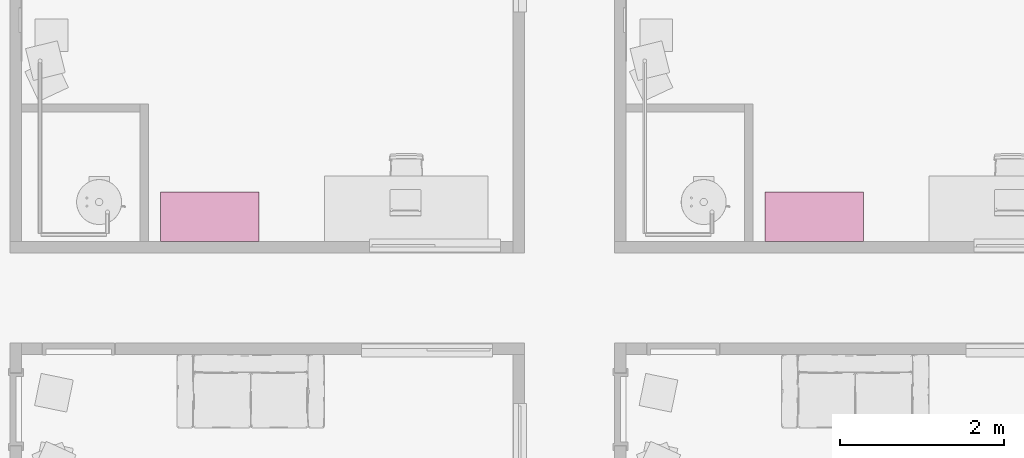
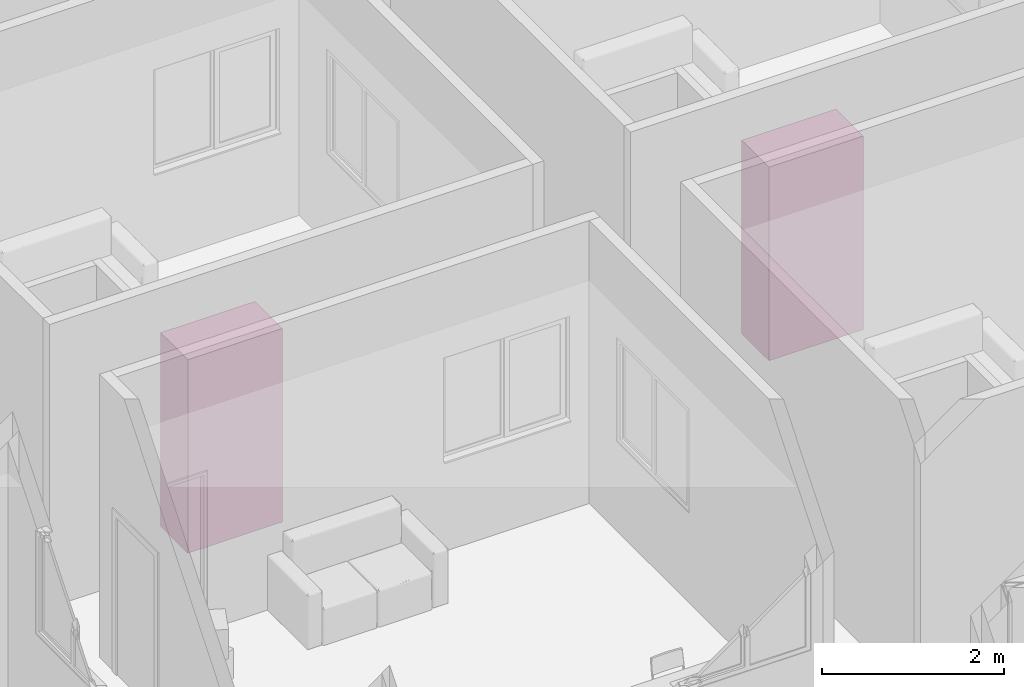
# One storey, part 67 of 71: 2 furniture elements.
"""IFC4 building model written with IfcOpenShell, lengths in centimetres."""

from ifc_helpers import new_model, entity, si_unit, converted_unit, derived_unit, direction, frame, origin, place, context, subcontext, project, spatial, indexed_curve, outline, extrude, source, transform, mapped, material, type_object, type_shapes, element, save


model = new_model("IFC4")

# Units and contexts
model_context = context("Model", 3, precision=0.001, world=origin(), true_north=direction((6.123233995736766e-17, 1.0)))
body_context = subcontext(model_context, "Body", "Model", "MODEL_VIEW")
ifc_project = project(units=[si_unit("LENGTHUNIT", "METRE", prefix="CENTI"), si_unit("AREAUNIT", "SQUARE_METRE"), si_unit("VOLUMEUNIT", "CUBIC_METRE"), derived_unit("THERMALTRANSMITTANCEUNIT", [(si_unit("MASSUNIT", "GRAM", prefix="KILO"), 1), (si_unit("THERMODYNAMICTEMPERATUREUNIT", "KELVIN"), -1), (si_unit("TIMEUNIT", "SECOND"), -3)]), converted_unit("PLANEANGLEUNIT", "DEGREE", entity("IfcPlaneAngleMeasure", 0.017453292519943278), si_unit("PLANEANGLEUNIT", "RADIAN"), dimensions=[0, 0, 0, 0, 0, 0, 0]), derived_unit("MASSDENSITYUNIT", [(si_unit("MASSUNIT", "GRAM", prefix="KILO"), 1), (si_unit("LENGTHUNIT", "METRE"), -3)]), derived_unit("VAPORPERMEABILITYUNIT", [(si_unit("LENGTHUNIT", "METRE"), -1), (si_unit("TIMEUNIT", "SECOND"), 1)]), derived_unit("USERDEFINED", [(si_unit("MASSUNIT", "GRAM", prefix="KILO"), 1), (si_unit("TIMEUNIT", "SECOND"), -3), (si_unit("LENGTHUNIT", "METRE"), 3), (si_unit("ELECTRICCURRENTUNIT", "AMPERE"), -2)]), derived_unit("SPECIFICHEATCAPACITYUNIT", [(si_unit("THERMODYNAMICTEMPERATUREUNIT", "KELVIN"), -1), (si_unit("LENGTHUNIT", "METRE"), 2), (si_unit("TIMEUNIT", "SECOND"), -2)]), derived_unit("THERMALCONDUCTANCEUNIT", [(si_unit("MASSUNIT", "GRAM", prefix="KILO"), 1), (si_unit("THERMODYNAMICTEMPERATUREUNIT", "KELVIN"), -1), (si_unit("TIMEUNIT", "SECOND"), -3), (si_unit("LENGTHUNIT", "METRE"), 1)]), si_unit("PRESSUREUNIT", "PASCAL"), derived_unit("MODULUSOFELASTICITYUNIT", [(si_unit("MASSUNIT", "GRAM", prefix="KILO"), 1), (si_unit("LENGTHUNIT", "METRE"), -1), (si_unit("TIMEUNIT", "SECOND"), -2)]), derived_unit("THERMALEXPANSIONCOEFFICIENTUNIT", [(si_unit("THERMODYNAMICTEMPERATUREUNIT", "KELVIN"), -1)])], contexts=[model_context])

# Site, building, storey, space
site_placement = place(None, origin())
site = spatial("IfcSite", under=ifc_project, at=site_placement, Name="Default", CompositionType="ELEMENT")
building_placement = place(site_placement, origin())
building = spatial("IfcBuilding", under=site, at=building_placement, Name="IDS Escape Game Building", CompositionType="ELEMENT")
storey_placement = place(building_placement, frame((0.0, 0.0, 400.0)))
storey = spatial("IfcBuildingStorey", under=building, at=storey_placement, Name="01_First Floor", CompositionType="ELEMENT", Elevation=399.99999999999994)
space_1_placement = place(storey_placement, origin())
space_1 = spatial("IfcSpace", under=storey, at=space_1_placement, Name="55", CompositionType="ELEMENT", PredefinedType="NOTDEFINED")

# Furniture
ifc_material = material(Name="<Unnamed>")
furniture_type = type_object("IfcFurnitureType", Name="BPL_82.11_CA_UN_kast_gen_BERSnl:type 1", AssemblyPlace="NOTDEFINED", PredefinedType="NOTDEFINED", material=ifc_material)
shared_shape = source(origin(), body_context, "Body", "SweptSolid", [
    extrude(outline(indexed_curve([(-59.99999999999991, -29.999999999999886), (59.99999999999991, -29.999999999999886), (59.99999999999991, 29.999999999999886), (-59.99999999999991, 29.999999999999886), (-59.99999999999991, -29.999999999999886)], self_intersect=False)), frame((-60.0, -30.0, 0.0), z_axis=(0.0, 0.0, 1.0), x_axis=(-1.0, 0.0, 0.0)), (0.0, 0.0, 1.0), 260.0),
])
type_shapes(furniture_type, [shared_shape])
furniture_1_placement = place(space_1_placement, frame((3987.0, 1349.0, 0.0)))
element("IfcFurniture", 1, at=furniture_1_placement, inside=space_1, type_object=furniture_type, material=ifc_material, Name="BPL_82.11_CA_UN_kast_gen_BERSnl:type 1", ObjectType="BPL_82.11_CA_UN_kast_gen_BERSnl:type 1", PredefinedType="NOTDEFINED", context=body_context, shape_type="MappedRepresentation", body=[
    mapped(shared_shape, transform((0.0, 0.0, 0.0), scale=1.0)),
])

# Space
space_2_placement = place(storey_placement, origin())
space_2 = spatial("IfcSpace", under=storey, at=space_2_placement, Name="56", CompositionType="ELEMENT", PredefinedType="NOTDEFINED")

# Furniture
furniture_2_placement = place(space_2_placement, frame((4725.0, 1349.0, 0.0)))
element("IfcFurniture", 2, at=furniture_2_placement, inside=space_2, type_object=furniture_type, material=ifc_material, Name="BPL_82.11_CA_UN_kast_gen_BERSnl:type 1", ObjectType="BPL_82.11_CA_UN_kast_gen_BERSnl:type 1", PredefinedType="NOTDEFINED", context=body_context, shape_type="MappedRepresentation", body=[
    mapped(shared_shape, transform((0.0, 0.0, 0.0), scale=1.0)),
])

save(model, "model.ifc")
